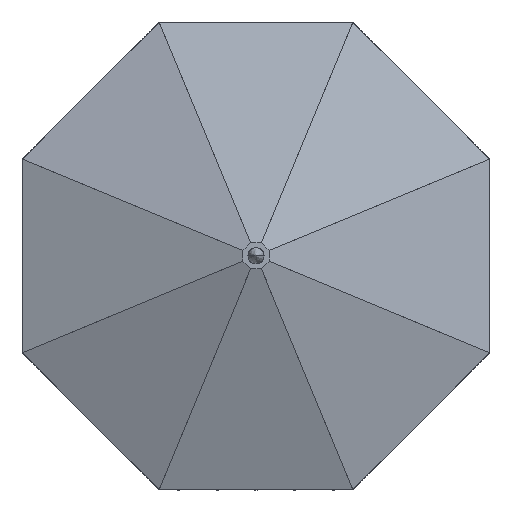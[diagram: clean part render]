
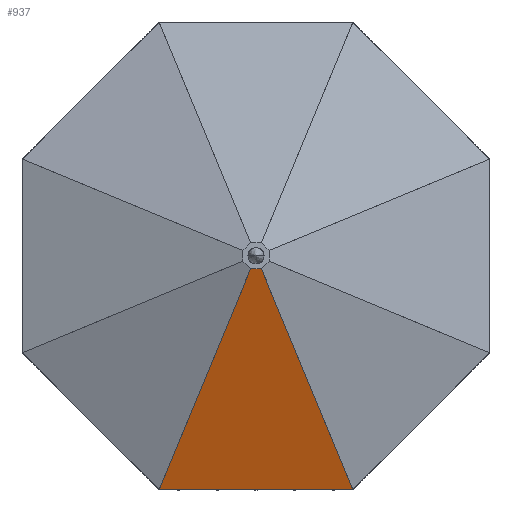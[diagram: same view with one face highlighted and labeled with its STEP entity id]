
A CAD part, top view. The second image highlights one B-rep face of the part: STEP entity #937.
In plain terms, the highlighted planar face has unit normal (0, -0.344, 0.939).
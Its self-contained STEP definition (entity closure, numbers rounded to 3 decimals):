
#937=ADVANCED_FACE('',(#3130),#33704,.T.);
#3130=FACE_OUTER_BOUND('',#5323,.T.);
#5323=EDGE_LOOP('',(#7595,#7596,#7597,#7598));
#7595=ORIENTED_EDGE('',*,*,#17645,.F.);
#7596=ORIENTED_EDGE('',*,*,#17638,.T.);
#7597=ORIENTED_EDGE('',*,*,#17646,.F.);
#7598=ORIENTED_EDGE('',*,*,#17644,.F.);
#17638=EDGE_CURVE('',#30041,#30042,#27300,.T.);
#17644=EDGE_CURVE('',#30047,#30048,#27306,.T.);
#17645=EDGE_CURVE('',#30041,#30047,#27307,.T.);
#17646=EDGE_CURVE('',#30048,#30042,#27308,.T.);
#27300=B_SPLINE_CURVE_WITH_KNOTS('',1,(#45563,#45564),.UNSPECIFIED.,.F.,
 .F.,(2,2),(-1245.617,0.),.UNSPECIFIED.);
#27306=B_SPLINE_CURVE_WITH_KNOTS('',1,(#45575,#45576),.UNSPECIFIED.,.F.,
 .F.,(2,2),(-1245.617,0.),.UNSPECIFIED.);
#27307=B_SPLINE_CURVE_WITH_KNOTS('',1,(#45577,#45578),.UNSPECIFIED.,.F.,
 .F.,(2,2),(-53.848,0.),.UNSPECIFIED.);
#27308=B_SPLINE_CURVE_WITH_KNOTS('',1,(#45579,#45580),.UNSPECIFIED.,.F.,
 .F.,(2,2),(-956.709,0.),.UNSPECIFIED.);
#30041=VERTEX_POINT('',#44847);
#30042=VERTEX_POINT('',#44848);
#30047=VERTEX_POINT('',#44853);
#30048=VERTEX_POINT('',#44854);
#33704=PLANE('',#34459);
#34459=AXIS2_PLACEMENT_3D('',#44446,#38304,$);
#38304=DIRECTION('',(0.,-0.345,0.939));
#44446=CARTESIAN_POINT('',(-574.025,-1271.835,2280.));
#44847=CARTESIAN_POINT('',(-26.924,-73.,2720.));
#44848=CARTESIAN_POINT('',(-478.354,-1162.849,2320.));
#44853=CARTESIAN_POINT('',(26.924,-73.,2720.));
#44854=CARTESIAN_POINT('',(478.354,-1162.849,2320.));
#45563=CARTESIAN_POINT('',(-26.924,-73.,2720.));
#45564=CARTESIAN_POINT('',(-478.354,-1162.849,2320.));
#45575=CARTESIAN_POINT('',(26.924,-73.,2720.));
#45576=CARTESIAN_POINT('',(478.354,-1162.849,2320.));
#45577=CARTESIAN_POINT('',(-26.924,-73.,2720.));
#45578=CARTESIAN_POINT('',(26.924,-73.,2720.));
#45579=CARTESIAN_POINT('',(478.354,-1162.849,2320.));
#45580=CARTESIAN_POINT('',(-478.354,-1162.849,2320.));
